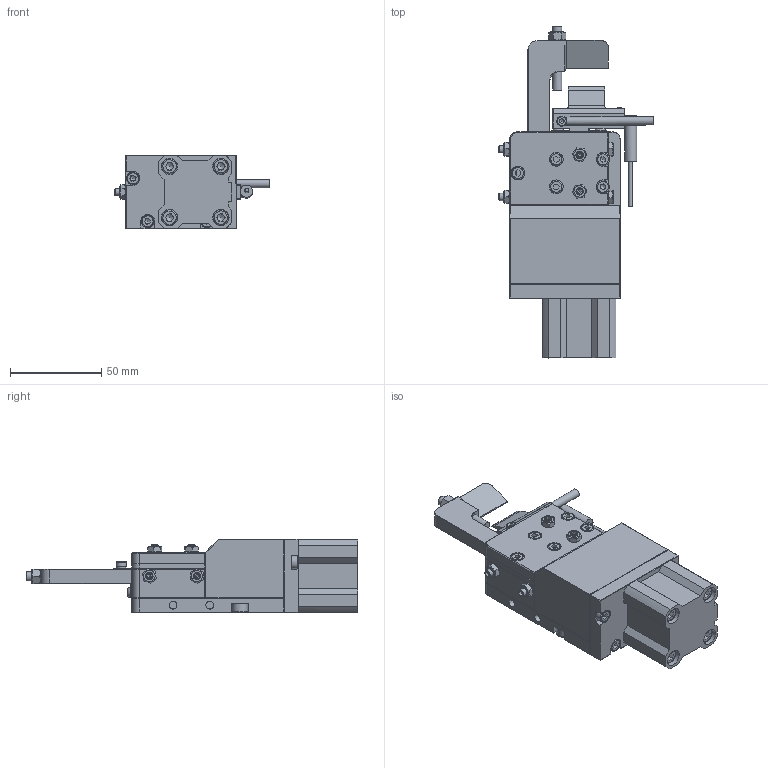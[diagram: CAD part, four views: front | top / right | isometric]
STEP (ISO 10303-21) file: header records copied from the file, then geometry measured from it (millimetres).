
FILE_DESCRIPTION(/* description */ (''),/* implementation_level */ '2;1');
FILE_NAME(/* name */ '油压推刀.stp',/* time_stamp */ '2023-12-22T13:54:25+08:00',/* author */ (''),/* organization */ (''),/* preprocessor_version */ 'ST-DEVELOPER v16',/* originating_system */ 'SIEMENS PLM Software NX 10.0',/* authorisation */ '');
FILE_SCHEMA (('CONFIG_CONTROL_DESIGN'));
Length unit declared in the file: millimetre
Products named in the file (1): _model20
Bounding box: 84.51 x 181.4 x 40.03 mm (x, y, z)
Volume: 245982.4 mm3; surface area: 47172.1 mm2
Topology: 1 solids, 26 shells, 1140 faces, 2738 edges, 1693 vertices
Faces by surface type: plane 915, cylinder 128, cone 75, revolution 22
Full cylindrical faces by diameter (mm): 2 x1, 2.5 x2, 3 x2, 3.1 x2, 3.3 x2, 4 x8, 4.134 x2, 4.2 x10, 4.5 x1, 5 x7, 5.2 x1, 5.5 x5, 6.6 x1, 7 x12, 7.5 x7, 8.5 x6, 9 x6
Entity records: 31787 total; most frequent: CARTESIAN_POINT 6589, DIRECTION 5090, ORIENTED_EDGE 4932, EDGE_CURVE 2466, LINE 1824, VECTOR 1824, AXIS2_PLACEMENT_3D 1622, VERTEX_POINT 1599
